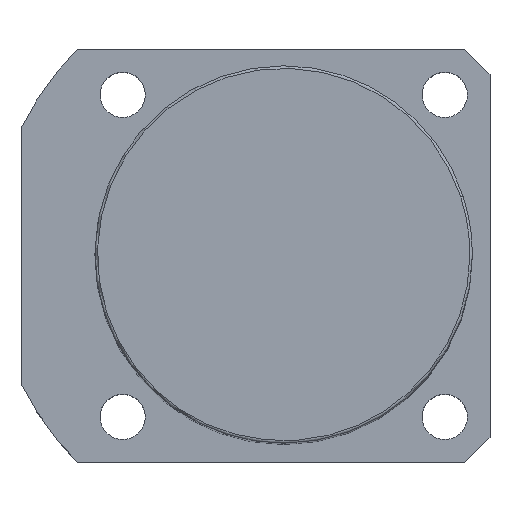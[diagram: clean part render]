
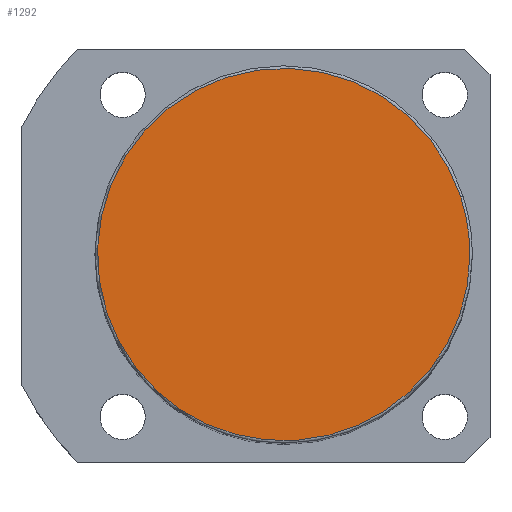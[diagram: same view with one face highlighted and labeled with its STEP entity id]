
A CAD part, top view. The second image highlights one B-rep face of the part: STEP entity #1292.
In plain terms, the highlighted planar face has unit normal (0, 0, 1).
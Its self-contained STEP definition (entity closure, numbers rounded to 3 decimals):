
#1258=CARTESIAN_POINT('',(37.0,0.0,168.0));
#1259=VERTEX_POINT('',#1258);
#1260=CARTESIAN_POINT('',(35.189,11.434,168.0));
#1261=VERTEX_POINT('',#1260);
#1262=CARTESIAN_POINT('',(0.0,0.0,168.0));
#1263=DIRECTION('',(0.0,0.0,1.0));
#1264=DIRECTION('',(1.0,0.0,0.0));
#1265=AXIS2_PLACEMENT_3D('',#1262,#1263,#1264);
#1266=CIRCLE('',#1265,37.0);
#1267=EDGE_CURVE('no 3974',#1259,#1261,#1266,.T.);
#1268=ORIENTED_EDGE('',*,*,#1267,.T.);
#1269=CARTESIAN_POINT('',(-35.189,-11.434,168.0));
#1270=VERTEX_POINT('',#1269);
#1271=CARTESIAN_POINT('',(0.0,0.0,168.0));
#1272=DIRECTION('',(0.0,0.0,1.0));
#1273=DIRECTION('',(1.0,0.0,0.0));
#1274=AXIS2_PLACEMENT_3D('',#1271,#1272,#1273);
#1275=CIRCLE('',#1274,37.0);
#1276=EDGE_CURVE('no 3980',#1261,#1270,#1275,.T.);
#1277=ORIENTED_EDGE('',*,*,#1276,.T.);
#1278=CARTESIAN_POINT('',(0.0,0.0,168.0));
#1279=DIRECTION('',(0.0,0.0,1.0));
#1280=DIRECTION('',(1.0,0.0,0.0));
#1281=AXIS2_PLACEMENT_3D('',#1278,#1279,#1280);
#1282=CIRCLE('',#1281,37.0);
#1283=EDGE_CURVE('no 3984',#1270,#1259,#1282,.T.);
#1284=ORIENTED_EDGE('',*,*,#1283,.T.);
#1285=EDGE_LOOP('',(#1268,#1277,#1284));
#1286=FACE_OUTER_BOUND('',#1285,.T.);
#1287=CARTESIAN_POINT('',(0.0,0.0,168.0));
#1288=DIRECTION('',(0.0,0.0,1.0));
#1289=DIRECTION('',(1.0,0.0,0.0));
#1290=AXIS2_PLACEMENT_3D('',#1287,#1288,#1289);
#1291=PLANE('',#1290);
#1292=ADVANCED_FACE('no 3965',(#1286),#1291,.T.);
